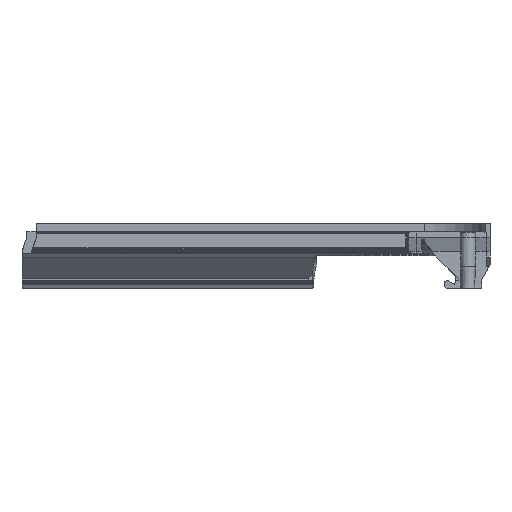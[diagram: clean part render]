
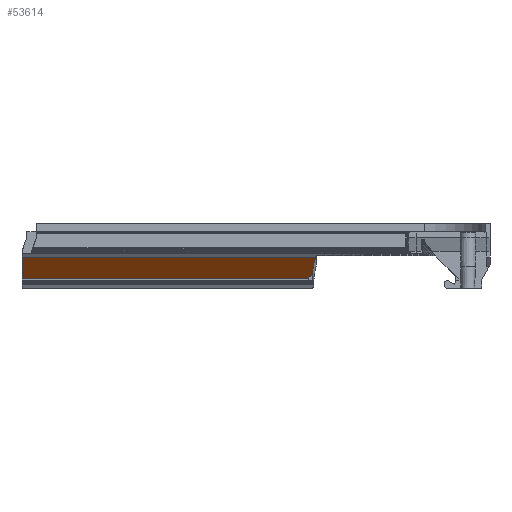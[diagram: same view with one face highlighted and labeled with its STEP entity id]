
A CAD part, front view. The second image highlights one B-rep face of the part: STEP entity #53614.
In plain terms, the highlighted planar face has unit normal (0, -0.707, -0.707).
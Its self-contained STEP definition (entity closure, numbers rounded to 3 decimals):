
#1787 = CYLINDRICAL_SURFACE('',#1788,35.05);
#1788 = AXIS2_PLACEMENT_3D('',#1789,#1790,#1791);
#1789 = CARTESIAN_POINT('',(155.95,167.85,-3.));
#1790 = DIRECTION('',(0.,0.,1.));
#1791 = DIRECTION('',(1.,0.,-0.));
#1814 = PLANE('',#1815);
#1815 = AXIS2_PLACEMENT_3D('',#1816,#1817,#1818);
#1816 = CARTESIAN_POINT('',(-126.7,156.995,13.005));
#1817 = DIRECTION('',(-0.,-0.777,-0.63));
#1818 = DIRECTION('',(0.,-0.63,0.777));
#3540 = EDGE_CURVE('',#3541,#3543,#3545,.T.);
#3541 = VERTEX_POINT('',#3542);
#3542 = CARTESIAN_POINT('',(122.623,156.995,
    13.005));
#3543 = VERTEX_POINT('',#3544);
#3544 = CARTESIAN_POINT('',(0.1,156.995,13.005));
#3545 = SURFACE_CURVE('',#3546,(#3549,#3555),.PCURVE_S1.);
#3546 = B_SPLINE_CURVE_WITH_KNOTS('',1,(#3547,#3548),.UNSPECIFIED.,.F.,
  .F.,(2,2),(0.,1.),.PIECEWISE_BEZIER_KNOTS.);
#3547 = CARTESIAN_POINT('',(126.7,156.995,13.005));
#3548 = CARTESIAN_POINT('',(-126.7,156.995,13.005));
#3549 = PCURVE('',#1814,#3550);
#3550 = DEFINITIONAL_REPRESENTATION('',(#3551),#3554);
#3551 = B_SPLINE_CURVE_WITH_KNOTS('',1,(#3552,#3553),.UNSPECIFIED.,.F.,
  .F.,(2,2),(0.,1.),.PIECEWISE_BEZIER_KNOTS.);
#3552 = CARTESIAN_POINT('',(0.,-253.4));
#3553 = CARTESIAN_POINT('',(0.,0.));
#3554 = ( GEOMETRIC_REPRESENTATION_CONTEXT(2) 
PARAMETRIC_REPRESENTATION_CONTEXT() REPRESENTATION_CONTEXT('2D SPACE',''
  ) );
#3555 = PCURVE('',#3556,#3561);
#3556 = PLANE('',#3557);
#3557 = AXIS2_PLACEMENT_3D('',#3558,#3559,#3560);
#3558 = CARTESIAN_POINT('',(-126.7,166.,4.));
#3559 = DIRECTION('',(-0.,-0.707,-0.707));
#3560 = DIRECTION('',(0.,-0.707,0.707));
#3561 = DEFINITIONAL_REPRESENTATION('',(#3562),#3565);
#3562 = B_SPLINE_CURVE_WITH_KNOTS('',1,(#3563,#3564),.UNSPECIFIED.,.F.,
  .F.,(2,2),(0.,1.),.PIECEWISE_BEZIER_KNOTS.);
#3563 = CARTESIAN_POINT('',(12.735,-253.4));
#3564 = CARTESIAN_POINT('',(12.735,0.));
#3565 = ( GEOMETRIC_REPRESENTATION_CONTEXT(2) 
PARAMETRIC_REPRESENTATION_CONTEXT() REPRESENTATION_CONTEXT('2D SPACE',''
  ) );
#3682 = PLANE('',#3683);
#3683 = AXIS2_PLACEMENT_3D('',#3684,#3685,#3686);
#3684 = CARTESIAN_POINT('',(0.1,167.9,8.9));
#3685 = DIRECTION('',(-1.,0.,0.));
#3686 = DIRECTION('',(0.,-1.,0.));
#50394 = VERTEX_POINT('',#50395);
#50395 = CARTESIAN_POINT('',(0.1,166.,4.));
#50408 = PLANE('',#50409);
#50409 = AXIS2_PLACEMENT_3D('',#50410,#50411,#50412);
#50410 = CARTESIAN_POINT('',(168.,166.,2.8));
#50411 = DIRECTION('',(0.,-1.,0.));
#50412 = DIRECTION('',(-1.,0.,0.));
#50419 = EDGE_CURVE('',#3543,#50394,#50420,.T.);
#50420 = SURFACE_CURVE('',#50421,(#50425,#50431),.PCURVE_S1.);
#50421 = LINE('',#50422,#50423);
#50422 = CARTESIAN_POINT('',(0.1,165.25,4.75));
#50423 = VECTOR('',#50424,1.);
#50424 = DIRECTION('',(0.,0.707,-0.707));
#50425 = PCURVE('',#3682,#50426);
#50426 = DEFINITIONAL_REPRESENTATION('',(#50427),#50430);
#50427 = B_SPLINE_CURVE_WITH_KNOTS('',1,(#50428,#50429),.UNSPECIFIED.,
  .F.,.F.,(2,2),(-11.675,1.061),
  .PIECEWISE_BEZIER_KNOTS.);
#50428 = CARTESIAN_POINT('',(10.905,4.105));
#50429 = CARTESIAN_POINT('',(1.9,-4.9));
#50430 = ( GEOMETRIC_REPRESENTATION_CONTEXT(2) 
PARAMETRIC_REPRESENTATION_CONTEXT() REPRESENTATION_CONTEXT('2D SPACE',''
  ) );
#50431 = PCURVE('',#3556,#50432);
#50432 = DEFINITIONAL_REPRESENTATION('',(#50433),#50436);
#50433 = B_SPLINE_CURVE_WITH_KNOTS('',1,(#50434,#50435),.UNSPECIFIED.,
  .F.,.F.,(2,2),(-11.675,1.061),
  .PIECEWISE_BEZIER_KNOTS.);
#50434 = CARTESIAN_POINT('',(12.735,-126.8));
#50435 = CARTESIAN_POINT('',(0.,-126.8));
#50436 = ( GEOMETRIC_REPRESENTATION_CONTEXT(2) 
PARAMETRIC_REPRESENTATION_CONTEXT() REPRESENTATION_CONTEXT('2D SPACE',''
  ) );
#53421 = PLANE('',#53422);
#53422 = AXIS2_PLACEMENT_3D('',#53423,#53424,#53425);
#53423 = CARTESIAN_POINT('',(156.267,165.,3.));
#53424 = DIRECTION('',(0.,-1.,0.));
#53425 = DIRECTION('',(0.,0.,1.));
#53447 = PLANE('',#53448);
#53448 = AXIS2_PLACEMENT_3D('',#53449,#53450,#53451);
#53449 = CARTESIAN_POINT('',(119.4,166.3,3.));
#53450 = DIRECTION('',(1.,0.,0.));
#53451 = DIRECTION('',(0.,-0.398,0.918));
#53483 = VERTEX_POINT('',#53484);
#53484 = CARTESIAN_POINT('',(119.4,165.,5.));
#53507 = VERTEX_POINT('',#53508);
#53508 = CARTESIAN_POINT('',(121.016,165.,5.));
#53527 = EDGE_CURVE('',#53483,#53507,#53528,.T.);
#53528 = SURFACE_CURVE('',#53529,(#53533,#53539),.PCURVE_S1.);
#53529 = LINE('',#53530,#53531);
#53530 = CARTESIAN_POINT('',(14.783,165.,5.));
#53531 = VECTOR('',#53532,1.);
#53532 = DIRECTION('',(1.,0.,-0.));
#53533 = PCURVE('',#53421,#53534);
#53534 = DEFINITIONAL_REPRESENTATION('',(#53535),#53538);
#53535 = B_SPLINE_CURVE_WITH_KNOTS('',1,(#53536,#53537),.UNSPECIFIED.,
  .F.,.F.,(2,2),(104.617,111.617),
  .PIECEWISE_BEZIER_KNOTS.);
#53536 = CARTESIAN_POINT('',(2.,36.867));
#53537 = CARTESIAN_POINT('',(2.,29.867));
#53538 = ( GEOMETRIC_REPRESENTATION_CONTEXT(2) 
PARAMETRIC_REPRESENTATION_CONTEXT() REPRESENTATION_CONTEXT('2D SPACE',''
  ) );
#53539 = PCURVE('',#3556,#53540);
#53540 = DEFINITIONAL_REPRESENTATION('',(#53541),#53544);
#53541 = B_SPLINE_CURVE_WITH_KNOTS('',1,(#53542,#53543),.UNSPECIFIED.,
  .F.,.F.,(2,2),(104.617,111.617),
  .PIECEWISE_BEZIER_KNOTS.);
#53542 = CARTESIAN_POINT('',(1.414,-246.1));
#53543 = CARTESIAN_POINT('',(1.414,-253.1));
#53544 = ( GEOMETRIC_REPRESENTATION_CONTEXT(2) 
PARAMETRIC_REPRESENTATION_CONTEXT() REPRESENTATION_CONTEXT('2D SPACE',''
  ) );
#53552 = VERTEX_POINT('',#53553);
#53553 = CARTESIAN_POINT('',(119.4,166.,4.));
#53572 = EDGE_CURVE('',#53483,#53552,#53573,.T.);
#53573 = SURFACE_CURVE('',#53574,(#53578,#53584),.PCURVE_S1.);
#53574 = LINE('',#53575,#53576);
#53575 = CARTESIAN_POINT('',(119.4,166.325,3.675));
#53576 = VECTOR('',#53577,1.);
#53577 = DIRECTION('',(0.,0.707,-0.707));
#53578 = PCURVE('',#53447,#53579);
#53579 = DEFINITIONAL_REPRESENTATION('',(#53580),#53583);
#53580 = B_SPLINE_CURVE_WITH_KNOTS('',1,(#53581,#53582),.UNSPECIFIED.,
  .F.,.F.,(2,2),(-2.86,-0.46),
  .PIECEWISE_BEZIER_KNOTS.);
#53581 = CARTESIAN_POINT('',(3.27,0.76));
#53582 = CARTESIAN_POINT('',(1.037,-0.122));
#53583 = ( GEOMETRIC_REPRESENTATION_CONTEXT(2) 
PARAMETRIC_REPRESENTATION_CONTEXT() REPRESENTATION_CONTEXT('2D SPACE',''
  ) );
#53584 = PCURVE('',#3556,#53585);
#53585 = DEFINITIONAL_REPRESENTATION('',(#53586),#53589);
#53586 = B_SPLINE_CURVE_WITH_KNOTS('',1,(#53587,#53588),.UNSPECIFIED.,
  .F.,.F.,(2,2),(-2.86,-0.46),
  .PIECEWISE_BEZIER_KNOTS.);
#53587 = CARTESIAN_POINT('',(2.401,-246.1));
#53588 = CARTESIAN_POINT('',(0.,-246.1));
#53589 = ( GEOMETRIC_REPRESENTATION_CONTEXT(2) 
PARAMETRIC_REPRESENTATION_CONTEXT() REPRESENTATION_CONTEXT('2D SPACE',''
  ) );
#53594 = EDGE_CURVE('',#53552,#50394,#53595,.T.);
#53595 = SURFACE_CURVE('',#53596,(#53599,#53605),.PCURVE_S1.);
#53596 = B_SPLINE_CURVE_WITH_KNOTS('',1,(#53597,#53598),.UNSPECIFIED.,
  .F.,.F.,(2,2),(0.,1.),.PIECEWISE_BEZIER_KNOTS.);
#53597 = CARTESIAN_POINT('',(126.7,166.,4.));
#53598 = CARTESIAN_POINT('',(-126.7,166.,4.));
#53599 = PCURVE('',#50408,#53600);
#53600 = DEFINITIONAL_REPRESENTATION('',(#53601),#53604);
#53601 = B_SPLINE_CURVE_WITH_KNOTS('',1,(#53602,#53603),.UNSPECIFIED.,
  .F.,.F.,(2,2),(0.,1.),.PIECEWISE_BEZIER_KNOTS.);
#53602 = CARTESIAN_POINT('',(41.3,-1.2));
#53603 = CARTESIAN_POINT('',(294.7,-1.2));
#53604 = ( GEOMETRIC_REPRESENTATION_CONTEXT(2) 
PARAMETRIC_REPRESENTATION_CONTEXT() REPRESENTATION_CONTEXT('2D SPACE',''
  ) );
#53605 = PCURVE('',#3556,#53606);
#53606 = DEFINITIONAL_REPRESENTATION('',(#53607),#53610);
#53607 = B_SPLINE_CURVE_WITH_KNOTS('',1,(#53608,#53609),.UNSPECIFIED.,
  .F.,.F.,(2,2),(0.,1.),.PIECEWISE_BEZIER_KNOTS.);
#53608 = CARTESIAN_POINT('',(0.,-253.4));
#53609 = CARTESIAN_POINT('',(0.,0.));
#53610 = ( GEOMETRIC_REPRESENTATION_CONTEXT(2) 
PARAMETRIC_REPRESENTATION_CONTEXT() REPRESENTATION_CONTEXT('2D SPACE',''
  ) );
#53614 = ADVANCED_FACE('',(#53615),#3556,.T.);
#53615 = FACE_BOUND('',#53616,.T.);
#53616 = EDGE_LOOP('',(#53617,#53618,#53619,#53620,#53645,#53646));
#53617 = ORIENTED_EDGE('',*,*,#53594,.F.);
#53618 = ORIENTED_EDGE('',*,*,#53572,.F.);
#53619 = ORIENTED_EDGE('',*,*,#53527,.T.);
#53620 = ORIENTED_EDGE('',*,*,#53621,.F.);
#53621 = EDGE_CURVE('',#3541,#53507,#53622,.T.);
#53622 = SURFACE_CURVE('',#53623,(#53628,#53635),.PCURVE_S1.);
#53623 = ELLIPSE('',#53624,49.568,35.05);
#53624 = AXIS2_PLACEMENT_3D('',#53625,#53626,#53627);
#53625 = CARTESIAN_POINT('',(155.95,167.85,2.15));
#53626 = DIRECTION('',(-0.,-0.707,-0.707));
#53627 = DIRECTION('',(0.,-0.707,0.707));
#53628 = PCURVE('',#3556,#53629);
#53629 = DEFINITIONAL_REPRESENTATION('',(#53630),#53634);
#53630 = ELLIPSE('',#53631,49.568,35.05);
#53631 = AXIS2_PLACEMENT_2D('',#53632,#53633);
#53632 = CARTESIAN_POINT('',(-2.616,-282.65));
#53633 = DIRECTION('',(1.,0.));
#53634 = ( GEOMETRIC_REPRESENTATION_CONTEXT(2) 
PARAMETRIC_REPRESENTATION_CONTEXT() REPRESENTATION_CONTEXT('2D SPACE',''
  ) );
#53635 = PCURVE('',#1787,#53636);
#53636 = DEFINITIONAL_REPRESENTATION('',(#53637),#53644);
#53637 = B_SPLINE_CURVE_WITH_KNOTS('',5,(#53638,#53639,#53640,#53641,
    #53642,#53643),.UNSPECIFIED.,.F.,.F.,(6,6),(1.241,
    1.544),.PIECEWISE_BEZIER_KNOTS.);
#53638 = CARTESIAN_POINT('',(3.471,16.5));
#53639 = CARTESIAN_POINT('',(3.411,14.493));
#53640 = CARTESIAN_POINT('',(3.35,12.433));
#53641 = CARTESIAN_POINT('',(3.29,10.337));
#53642 = CARTESIAN_POINT('',(3.229,8.22));
#53643 = CARTESIAN_POINT('',(3.169,6.099));
#53644 = ( GEOMETRIC_REPRESENTATION_CONTEXT(2) 
PARAMETRIC_REPRESENTATION_CONTEXT() REPRESENTATION_CONTEXT('2D SPACE',''
  ) );
#53645 = ORIENTED_EDGE('',*,*,#3540,.T.);
#53646 = ORIENTED_EDGE('',*,*,#50419,.T.);
